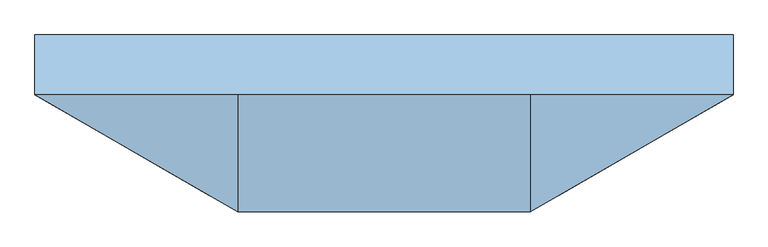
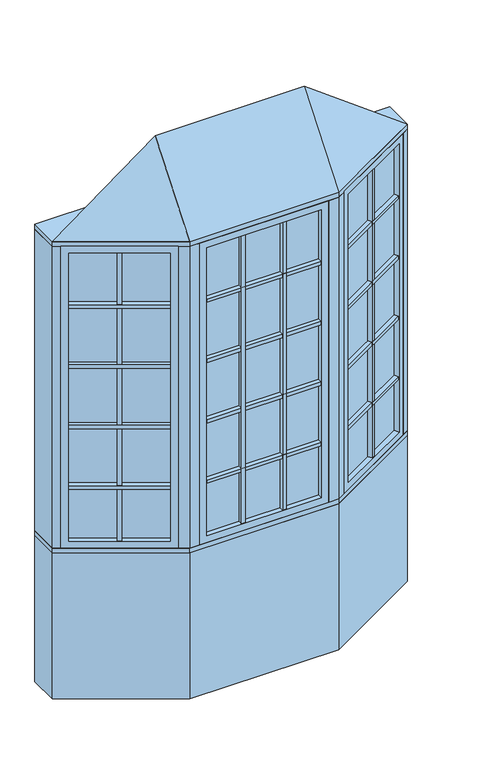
"""IFC4 building model written with IfcOpenShell, lengths in millimetres: window geometry, Pollard_Windows_Tudor Casement Bows and Bays : AML-BAY 30 AFR0516-08-500_GC."""

import ifcopenshell
import ifcopenshell.guid

model = None  # the IFC model being written
_history = None  # IfcOwnerHistory: only IFC2X3 demands one
_inside = {}  # id of a spatial element -> (the spatial element, [elements in it])
_under = {}  # id of a project, library or spatial element -> (it, [spatial elements below it])
_declared = {}  # id of a project -> (the project, [libraries it declares])
_typed = {}  # id of a type object -> (the type object, [elements of that type])
_made_of = {}  # id of a material, layer set ... -> (it, [elements and type objects made of it])


def new_model(schema):
    """Start an empty IFC model of exactly this schema.

    Asked for "IFC4X3", IfcOpenShell would pick the latest addendum, in which some entities
    have other attributes; the version numbers below select the first issue.
    IFC2X3 requires an IfcOwnerHistory on every rooted entity: one is made here for all.
    """
    global model, _history
    if schema == "IFC4X3":
        model = ifcopenshell.file(schema_version=(4, 3, 0, 0))
    else:
        model = ifcopenshell.file(schema=schema)
    _inside.clear()
    _under.clear()
    _declared.clear()
    _typed.clear()
    _made_of.clear()
    _history = None
    if model.schema == "IFC2X3":
        org = make("IfcOrganization", Name="unknown")
        user = make(
            "IfcPersonAndOrganization",
            ThePerson=make("IfcPerson", FamilyName="unknown"),
            TheOrganization=org,
        )
        app = make(
            "IfcApplication",
            ApplicationDeveloper=org,
            Version="unknown",
            ApplicationFullName="unknown",
            ApplicationIdentifier="unknown",
        )
        _history = make(
            "IfcOwnerHistory",
            OwningUser=user,
            OwningApplication=app,
            ChangeAction="ADDED",
            CreationDate=0,
        )
    return model


def make(cls, **values):
    """One entity of the class cls with the attributes given. An attribute that is None is left unset."""
    return model.create_entity(
        cls, **{name: value for name, value in values.items() if value is not None}
    )


def rooted(cls, **values):
    """An entity with a GlobalId (a new one), such as an element, a storey or a relation."""
    return make(cls, GlobalId=ifcopenshell.guid.new(), OwnerHistory=_history, **values)


def si_unit(unit_type, name, prefix=None):
    """IfcSIUnit, for example si_unit("LENGTHUNIT", "METRE", prefix="MILLI")."""
    return make("IfcSIUnit", UnitType=unit_type, Prefix=prefix, Name=name)


def assignment(units):
    """IfcUnitAssignment: the units of a project."""
    return None if units is None else make("IfcUnitAssignment", Units=units)


def point(xyz):
    """IfcCartesianPoint."""
    return None if xyz is None else make("IfcCartesianPoint", Coordinates=xyz)


def direction(xyz):
    """IfcDirection."""
    return None if xyz is None else make("IfcDirection", DirectionRatios=xyz)


def frame(location, z_axis=None, x_axis=None):
    """IfcAxis2Placement3D, a coordinate frame: its origin and axes. An axis left out is left unset."""
    return make(
        "IfcAxis2Placement3D",
        Location=point(location),
        Axis=direction(z_axis),
        RefDirection=direction(x_axis),
    )


def origin():
    """The frame at (0, 0, 0) with its axes left unset."""
    return frame((0.0, 0.0, 0.0))


def origin_with_axes():
    """The frame at (0, 0, 0) with the z axis (0, 0, 1) and the x axis (1, 0, 0) written out."""
    return frame((0.0, 0.0, 0.0), z_axis=(0.0, 0.0, 1.0), x_axis=(1.0, 0.0, 0.0))


def place(relative_to, where):
    """IfcLocalPlacement: puts the frame where relative to a parent placement (None: the world)."""
    return make(
        "IfcLocalPlacement", PlacementRelTo=relative_to, RelativePlacement=where
    )


def context(
    kind, dimensions, precision=None, world=None, true_north=None, identifier=None
):
    """IfcGeometricRepresentationContext, for example the 3D "Model" context."""
    return make(
        "IfcGeometricRepresentationContext",
        ContextIdentifier=identifier,
        ContextType=kind,
        CoordinateSpaceDimension=dimensions,
        Precision=precision,
        WorldCoordinateSystem=world,
        TrueNorth=true_north,
    )


def project(units=None, contexts=None):
    """IfcProject with its units and contexts."""
    return rooted(
        "IfcProject",
        Name="project",
        RepresentationContexts=contexts,
        UnitsInContext=assignment(units),
    )


def spatial(cls, under=None, at=None, **own):
    """A site, building, storey or space (cls), placed at a placement, below another one or the project."""
    s = rooted(cls, ObjectPlacement=at, **own)
    if under is not None:
        _under.setdefault(under.id(), (under, []))[1].append(s)
    return s


def polyline(points):
    """IfcPolyline through the points."""
    return make("IfcPolyline", Points=[point(p) for p in points])


def outline(outer, holes=None, kind="AREA"):
    """IfcArbitraryClosedProfileDef: a profile drawn as a closed curve; with holes, ...WithVoids."""
    if holes is None:
        return make("IfcArbitraryClosedProfileDef", ProfileType=kind, OuterCurve=outer)
    return make(
        "IfcArbitraryProfileDefWithVoids",
        ProfileType=kind,
        OuterCurve=outer,
        InnerCurves=holes,
    )


def extrude(swept, where, along, depth):
    """IfcExtrudedAreaSolid: the profile swept, set in the frame where, extruded along a direction by depth."""
    return make(
        "IfcExtrudedAreaSolid",
        SweptArea=swept,
        Position=where,
        ExtrudedDirection=direction(along),
        Depth=depth,
    )


def faces_of(points, faces, orient=None, outer=None):
    """IfcFace entities. A face is a list of loops; a loop is a list of indices into points, from 0.

    orient and outer hold one flag for each loop. By default every Orientation is true, the
    first loop of a face is its IfcFaceOuterBound and the others are IfcFaceBound.
    """
    made = []
    for i, loops in enumerate(faces):
        bounds = []
        for j, loop in enumerate(loops):
            is_outer = j == 0 if outer is None else outer[i][j]
            bounds.append(
                make(
                    "IfcFaceOuterBound" if is_outer else "IfcFaceBound",
                    Bound=make("IfcPolyLoop", Polygon=[points[k] for k in loop]),
                    Orientation=True if orient is None else orient[i][j],
                )
            )
        made.append(make("IfcFace", Bounds=bounds))
    return made


def faceted_brep(points, faces, orient=None, outer=None, voids=None):
    """IfcFacetedBrep: a solid bounded by flat faces; with voids (closed shells), ...WithVoids."""
    shared = [point(p) for p in points]
    hull = make("IfcClosedShell", CfsFaces=faces_of(shared, faces, orient, outer))
    if voids is None:
        return make("IfcFacetedBrep", Outer=hull)
    return make(
        "IfcFacetedBrepWithVoids",
        Outer=hull,
        Voids=[
            make(cls, CfsFaces=faces_of(shared, fs, o, b)) for cls, fs, o, b in voids
        ],
    )


def shape(context_of_items, identifier, shape_type, items):
    """IfcShapeRepresentation: the items that make up one representation, for example the "Body"."""
    return make(
        "IfcShapeRepresentation",
        ContextOfItems=context_of_items,
        RepresentationIdentifier=identifier,
        RepresentationType=shape_type,
        Items=items,
    )


def source(mapping_origin, context_of_items, identifier, shape_type, items):
    """IfcRepresentationMap: a shape defined once, which mapped items show again and again."""
    return make(
        "IfcRepresentationMap",
        MappingOrigin=mapping_origin,
        MappedRepresentation=shape(context_of_items, identifier, shape_type, items),
    )


def transform(
    local_origin,
    x_axis=None,
    y_axis=None,
    z_axis=None,
    scale=None,
    scale2=None,
    scale3=None,
    uniform=True,
):
    """IfcCartesianTransformationOperator3D, or its non-uniform kind. x_axis, y_axis, z_axis: its Axis1, 2, 3."""
    if uniform:
        return make(
            "IfcCartesianTransformationOperator3D",
            Axis1=direction(x_axis),
            Axis2=direction(y_axis),
            LocalOrigin=point(local_origin),
            Scale=scale,
            Axis3=direction(z_axis),
        )
    return make(
        "IfcCartesianTransformationOperator3DnonUniform",
        Axis1=direction(x_axis),
        Axis2=direction(y_axis),
        LocalOrigin=point(local_origin),
        Scale=scale,
        Axis3=direction(z_axis),
        Scale2=scale2,
        Scale3=scale3,
    )


def mapped(mapping_source, mapping_target):
    """IfcMappedItem: shows the shape of a source again, moved by a transform."""
    return make(
        "IfcMappedItem", MappingSource=mapping_source, MappingTarget=mapping_target
    )


def made_of(thing, what):
    """Note that an element or type object is made of a material, layer set ...; save() writes the relation."""
    if what is not None:
        _made_of.setdefault(what.id(), (what, []))[1].append(thing)
    return thing


def element(
    cls,
    number,
    at=None,
    inside=None,
    cuts=None,
    type_object=None,
    material=None,
    context=None,
    identifier="Body",
    shape_type=None,
    held_by="IfcProductDefinitionShape",
    body=None,
    shapes=None,
    **own,
):
    """One element of the class cls, such as IfcWall. Its Tag is "e" and its number.

    at: its placement. inside: the storey or other place that contains it. cuts: it is an
    opening in that element (IfcRelVoidsElement). A single representation is given by context,
    identifier, shape_type and body (its items); several are given by shapes. held_by: the class
    of the entity that holds the representations. save() writes the other relations.
    """
    e = rooted(cls, Tag="e%d" % number, ObjectPlacement=at, **own)
    if body is not None:
        shapes = [shape(context, identifier, shape_type, body)]
    if shapes is not None:
        e.Representation = make(held_by, Representations=shapes)
    if inside is not None:
        _inside.setdefault(inside.id(), (inside, []))[1].append(e)
    if cuts is not None:
        rooted(
            "IfcRelVoidsElement", RelatingBuildingElement=cuts, RelatedOpeningElement=e
        )
    if type_object is not None:
        _typed.setdefault(type_object.id(), (type_object, []))[1].append(e)
    return made_of(e, material)


def aggregate(whole, parts):
    """IfcRelAggregates: a whole, such as a stair, and the parts it consists of."""
    return rooted("IfcRelAggregates", RelatingObject=whole, RelatedObjects=parts)


def save(model, path):
    """Write the relations noted so far, then the file.

    IfcRelAggregates (storeys below a building ...), IfcRelContainedInSpatialStructure (elements
    in a storey), IfcRelDefinesByType, IfcRelAssociatesMaterial and IfcRelDeclares: one each for
    every whole, place, type object, material and project.
    """
    for whole, parts in _under.values():
        aggregate(whole, parts)
    for where, things in _inside.values():
        rooted(
            "IfcRelContainedInSpatialStructure",
            RelatedElements=things,
            RelatingStructure=where,
        )
    for kind, things in _typed.values():
        rooted("IfcRelDefinesByType", RelatedObjects=things, RelatingType=kind)
    for what, things in _made_of.values():
        rooted("IfcRelAssociatesMaterial", RelatedObjects=things, RelatingMaterial=what)
    for by, libraries in _declared.values():
        rooted("IfcRelDeclares", RelatingContext=by, RelatedDefinitions=libraries)
    model.write(path)


def window_facd88c2(model_context):
    return source(origin(), model_context, "Body", "SolidModel", [
        extrude(outline(polyline([(445.7305346, -327.3537343), (434.7305346, -308.3011754), (815.6135794, -88.3982469), (826.6135794, -107.4508058), (445.7305346, -327.3537343)])), frame((0.0, 0.0, 1110.998), z_axis=(0.0, 0.0, 1.0), x_axis=(1.0, 0.0, 0.0)), (0.0, 0.0, 1.0), 18.0),
        extrude(outline(polyline([(432.1905346, -303.9017664), (421.1905346, -284.8492075), (802.0735794, -64.946279), (813.0735794, -83.9988379), (432.1905346, -303.9017664)])), frame((0.0, 0.0, 1110.998), z_axis=(0.0, 0.0, 1.0), x_axis=(1.0, 0.0, 0.0)), (0.0, 0.0, 1.0), 18.0),
        extrude(outline(polyline([(445.7305346, -327.3537343), (434.7305346, -308.3011754), (815.6135794, -88.3982469), (826.6135794, -107.4508058), (445.7305346, -327.3537343)])), frame((0.0, 0.0, 1430.998), z_axis=(0.0, 0.0, 1.0), x_axis=(1.0, 0.0, 0.0)), (0.0, 0.0, 1.0), 18.0),
        extrude(outline(polyline([(432.1905346, -303.9017664), (421.1905346, -284.8492075), (802.0735794, -64.946279), (813.0735794, -83.9988379), (432.1905346, -303.9017664)])), frame((0.0, 0.0, 1430.998), z_axis=(0.0, 0.0, 1.0), x_axis=(1.0, 0.0, 0.0)), (0.0, 0.0, 1.0), 18.0),
        extrude(outline(polyline([(445.7305346, -327.3537343), (434.7305346, -308.3011754), (815.6135794, -88.3982469), (826.6135794, -107.4508058), (445.7305346, -327.3537343)])), frame((0.0, 0.0, 1750.998), z_axis=(0.0, 0.0, 1.0), x_axis=(1.0, 0.0, 0.0)), (0.0, 0.0, 1.0), 18.0),
        extrude(outline(polyline([(432.1905346, -303.9017664), (421.1905346, -284.8492075), (802.0735794, -64.946279), (813.0735794, -83.9988379), (432.1905346, -303.9017664)])), frame((0.0, 0.0, 1750.998), z_axis=(0.0, 0.0, 1.0), x_axis=(1.0, 0.0, 0.0)), (0.0, 0.0, 1.0), 18.0),
        extrude(outline(polyline([(445.7305346, -327.3537343), (434.7305346, -308.3011754), (815.6135794, -88.3982469), (826.6135794, -107.4508058), (445.7305346, -327.3537343)])), frame((0.0, 0.0, 2070.998), z_axis=(0.0, 0.0, 1.0), x_axis=(1.0, 0.0, 0.0)), (0.0, 0.0, 1.0), 18.0),
        extrude(outline(polyline([(432.1905346, -303.9017664), (421.1905346, -284.8492075), (802.0735794, -64.946279), (813.0735794, -83.9988379), (432.1905346, -303.9017664)])), frame((0.0, 0.0, 2070.998), z_axis=(0.0, 0.0, 1.0), x_axis=(1.0, 0.0, 0.0)), (0.0, 0.0, 1.0), 18.0),
        extrude(outline(polyline([(632.9662856, -193.8497112), (643.9662856, -212.9022701), (628.3778284, -221.9022701), (617.3778284, -202.8497112), (632.9662856, -193.8497112)])), frame((0.0, 0.0, 835.8628), z_axis=(0.0, 0.0, 1.0), x_axis=(1.0, 0.0, 0.0)), (0.0, 0.0, 1.0), 1528.2704),
        extrude(outline(polyline([(630.4262856, -189.4503021), (614.8378284, -198.4503021), (603.8378284, -179.3977432), (619.4262856, -170.3977432), (630.4262856, -189.4503021)])), frame((0.0, 0.0, 835.8628), z_axis=(0.0, 0.0, 1.0), x_axis=(1.0, 0.0, 0.0)), (0.0, 0.0, 1.0), 1528.2704),
        extrude(outline(polyline([(826.612102, -82.0482469), (423.7320119, -314.6511754), (421.1920119, -310.2517664), (824.072102, -77.6488379), (826.612102, -82.0482469)])), frame((0.0, 0.0, 823.1628), z_axis=(0.0, 0.0, 1.0), x_axis=(1.0, 0.0, 0.0)), (0.0, 0.0, 1.0), 1553.6704),
        faceted_brep([(815.6135794, -88.3982469, 835.8628), (828.3135794, -110.3952922, 835.8628), (828.3135794, -110.3952922, 2364.1332), (815.6135794, -88.3982469, 2364.1332), (824.072102, -77.6488379, 823.1628), (826.612102, -82.0482469, 823.1628), (826.612102, -82.0482469, 2376.8332), (824.072102, -77.6488379, 2376.8332), (800.3735794, -62.0017926, 835.8628), (813.0735794, -83.9988379, 835.8628), (813.0735794, -83.9988379, 2364.1332), (800.3735794, -62.0017926, 2364.1332), (859.3734073, -92.4628922, 799.998), (831.4334073, -44.0693926, 799.998), (831.4334073, -44.0693926, 2399.998), (859.3734073, -92.4628922, 2399.998), (447.4305346, -330.2982207, 2364.1332), (434.7305346, -308.3011754, 2364.1332), (423.7320119, -314.6511754, 2376.8332), (421.1920119, -310.2517664, 2376.8332), (432.1905346, -303.9017664, 2364.1332), (419.4905346, -281.9047211, 2364.1332), (388.4307067, -299.8371211, 2399.998), (416.3707067, -348.2306207, 2399.998), (447.4305346, -330.2982207, 835.8628), (434.7305346, -308.3011754, 835.8628), (423.7320119, -314.6511754, 823.1628), (421.1920119, -310.2517664, 823.1628), (432.1905346, -303.9017664, 835.8628), (419.4905346, -281.9047211, 835.8628), (388.4307067, -299.8371211, 799.998), (416.3707067, -348.2306207, 799.998)], [[[0, 1, 2, 3]], [[4, 5, 6, 7]], [[8, 9, 10, 11]], [[12, 13, 14, 15]], [[3, 2, 16, 17]], [[7, 6, 18, 19]], [[11, 10, 20, 21]], [[15, 14, 22, 23]], [[17, 16, 24, 25]], [[19, 18, 26, 27]], [[21, 20, 28, 29]], [[23, 22, 30, 31]], [[25, 24, 1, 0]], [[5, 26, 18, 6], [3, 17, 25, 0]], [[27, 26, 5, 4]], [[7, 19, 27, 4], [9, 28, 20, 10]], [[29, 28, 9, 8]], [[13, 30, 22, 14], [11, 21, 29, 8]], [[31, 30, 13, 12]], [[15, 23, 31, 12], [1, 24, 16, 2]]]),
        extrude(outline(polyline([(111.9683455, -347.8306207), (111.9683455, -369.8306207), (93.9683455, -369.8306207), (93.9683455, -347.8306207), (111.9683455, -347.8306207)])), frame((0.0, 0.0, 835.8628), z_axis=(0.0, 0.0, 1.0), x_axis=(1.0, 0.0, 0.0)), (0.0, 0.0, 1.0), 1528.2704),
        extrude(outline(polyline([(111.9683455, -342.7506207), (93.9683455, -342.7506207), (93.9683455, -320.7506207), (111.9683455, -320.7506207), (111.9683455, -342.7506207)])), frame((0.0, 0.0, 835.8628), z_axis=(0.0, 0.0, 1.0), x_axis=(1.0, 0.0, 0.0)), (0.0, 0.0, 1.0), 1528.2704),
        extrude(outline(polyline([(-93.9683455, -347.8306207), (-93.9683455, -369.8306207), (-111.9683455, -369.8306207), (-111.9683455, -347.8306207), (-93.9683455, -347.8306207)])), frame((0.0, 0.0, 835.8628), z_axis=(0.0, 0.0, 1.0), x_axis=(1.0, 0.0, 0.0)), (0.0, 0.0, 1.0), 1528.2704),
        extrude(outline(polyline([(-93.9683455, -342.7506207), (-111.9683455, -342.7506207), (-111.9683455, -320.7506207), (-93.9683455, -320.7506207), (-93.9683455, -342.7506207)])), frame((0.0, 0.0, 835.8628), z_axis=(0.0, 0.0, 1.0), x_axis=(1.0, 0.0, 0.0)), (0.0, 0.0, 1.0), 1528.2704),
        extrude(outline(polyline([(-287.2046365, -369.8306207), (-287.2046365, -347.8306207), (287.2046365, -347.8306207), (287.2046365, -369.8306207), (-287.2046365, -369.8306207)])), frame((0.0, 0.0, 1110.998), z_axis=(0.0, 0.0, 1.0), x_axis=(1.0, 0.0, 0.0)), (0.0, 0.0, 1.0), 18.0),
        extrude(outline(polyline([(-287.2046365, -342.7506207), (-287.2046365, -320.7506207), (287.2046365, -320.7506207), (287.2046365, -342.7506207), (-287.2046365, -342.7506207)])), frame((0.0, 0.0, 1110.998), z_axis=(0.0, 0.0, 1.0), x_axis=(1.0, 0.0, 0.0)), (0.0, 0.0, 1.0), 18.0),
        extrude(outline(polyline([(-287.2046365, -369.8306207), (-287.2046365, -347.8306207), (287.2046365, -347.8306207), (287.2046365, -369.8306207), (-287.2046365, -369.8306207)])), frame((0.0, 0.0, 1430.998), z_axis=(0.0, 0.0, 1.0), x_axis=(1.0, 0.0, 0.0)), (0.0, 0.0, 1.0), 18.0),
        extrude(outline(polyline([(-287.2046365, -342.7506207), (-287.2046365, -320.7506207), (287.2046365, -320.7506207), (287.2046365, -342.7506207), (-287.2046365, -342.7506207)])), frame((0.0, 0.0, 1430.998), z_axis=(0.0, 0.0, 1.0), x_axis=(1.0, 0.0, 0.0)), (0.0, 0.0, 1.0), 18.0),
        extrude(outline(polyline([(-287.2046365, -369.8306207), (-287.2046365, -347.8306207), (287.2046365, -347.8306207), (287.2046365, -369.8306207), (-287.2046365, -369.8306207)])), frame((0.0, 0.0, 1750.998), z_axis=(0.0, 0.0, 1.0), x_axis=(1.0, 0.0, 0.0)), (0.0, 0.0, 1.0), 18.0),
        extrude(outline(polyline([(-287.2046365, -342.7506207), (-287.2046365, -320.7506207), (287.2046365, -320.7506207), (287.2046365, -342.7506207), (-287.2046365, -342.7506207)])), frame((0.0, 0.0, 1750.998), z_axis=(0.0, 0.0, 1.0), x_axis=(1.0, 0.0, 0.0)), (0.0, 0.0, 1.0), 18.0),
        extrude(outline(polyline([(-826.6135794, -107.4508058), (-815.6135794, -88.3982469), (-434.7305346, -308.3011754), (-445.7305346, -327.3537343), (-826.6135794, -107.4508058)])), frame((0.0, 0.0, 1110.998), z_axis=(0.0, 0.0, 1.0), x_axis=(1.0, 0.0, 0.0)), (0.0, 0.0, 1.0), 18.0),
        extrude(outline(polyline([(-813.0735794, -83.9988379), (-802.0735794, -64.946279), (-421.1905346, -284.8492075), (-432.1905346, -303.9017664), (-813.0735794, -83.9988379)])), frame((0.0, 0.0, 1110.998), z_axis=(0.0, 0.0, 1.0), x_axis=(1.0, 0.0, 0.0)), (0.0, 0.0, 1.0), 18.0),
        extrude(outline(polyline([(-826.6135794, -107.4508058), (-815.6135794, -88.3982469), (-434.7305346, -308.3011754), (-445.7305346, -327.3537343), (-826.6135794, -107.4508058)])), frame((0.0, 0.0, 1430.998), z_axis=(0.0, 0.0, 1.0), x_axis=(1.0, 0.0, 0.0)), (0.0, 0.0, 1.0), 18.0),
        extrude(outline(polyline([(-813.0735794, -83.9988379), (-802.0735794, -64.946279), (-421.1905346, -284.8492075), (-432.1905346, -303.9017664), (-813.0735794, -83.9988379)])), frame((0.0, 0.0, 1430.998), z_axis=(0.0, 0.0, 1.0), x_axis=(1.0, 0.0, 0.0)), (0.0, 0.0, 1.0), 18.0),
        extrude(outline(polyline([(-826.6135794, -107.4508058), (-815.6135794, -88.3982469), (-434.7305346, -308.3011754), (-445.7305346, -327.3537343), (-826.6135794, -107.4508058)])), frame((0.0, 0.0, 1750.998), z_axis=(0.0, 0.0, 1.0), x_axis=(1.0, 0.0, 0.0)), (0.0, 0.0, 1.0), 18.0),
        extrude(outline(polyline([(-813.0735794, -83.9988379), (-802.0735794, -64.946279), (-421.1905346, -284.8492075), (-432.1905346, -303.9017664), (-813.0735794, -83.9988379)])), frame((0.0, 0.0, 1750.998), z_axis=(0.0, 0.0, 1.0), x_axis=(1.0, 0.0, 0.0)), (0.0, 0.0, 1.0), 18.0),
        extrude(outline(polyline([(-826.6135794, -107.4508058), (-815.6135794, -88.3982469), (-434.7305346, -308.3011754), (-445.7305346, -327.3537343), (-826.6135794, -107.4508058)])), frame((0.0, 0.0, 2070.998), z_axis=(0.0, 0.0, 1.0), x_axis=(1.0, 0.0, 0.0)), (0.0, 0.0, 1.0), 18.0),
        extrude(outline(polyline([(-813.0735794, -83.9988379), (-802.0735794, -64.946279), (-421.1905346, -284.8492075), (-432.1905346, -303.9017664), (-813.0735794, -83.9988379)])), frame((0.0, 0.0, 2070.998), z_axis=(0.0, 0.0, 1.0), x_axis=(1.0, 0.0, 0.0)), (0.0, 0.0, 1.0), 18.0),
        extrude(outline(polyline([(-287.2046365, -369.8306207), (-287.2046365, -347.8306207), (287.2046365, -347.8306207), (287.2046365, -369.8306207), (-287.2046365, -369.8306207)])), frame((0.0, 0.0, 2070.998), z_axis=(0.0, 0.0, 1.0), x_axis=(1.0, 0.0, 0.0)), (0.0, 0.0, 1.0), 18.0),
        extrude(outline(polyline([(-287.2046365, -342.7506207), (-287.2046365, -320.7506207), (287.2046365, -320.7506207), (287.2046365, -342.7506207), (-287.2046365, -342.7506207)])), frame((0.0, 0.0, 2070.998), z_axis=(0.0, 0.0, 1.0), x_axis=(1.0, 0.0, 0.0)), (0.0, 0.0, 1.0), 18.0),
        extrude(outline(polyline([(-617.3778284, -202.8497112), (-628.3778284, -221.9022701), (-643.9662856, -212.9022701), (-632.9662856, -193.8497112), (-617.3778284, -202.8497112)])), frame((0.0, 0.0, 835.8628), z_axis=(0.0, 0.0, 1.0), x_axis=(1.0, 0.0, 0.0)), (0.0, 0.0, 1.0), 1528.2704),
        extrude(outline(polyline([(-614.8378284, -198.4503021), (-630.4262856, -189.4503021), (-619.4262856, -170.3977432), (-603.8378284, -179.3977432), (-614.8378284, -198.4503021)])), frame((0.0, 0.0, 835.8628), z_axis=(0.0, 0.0, 1.0), x_axis=(1.0, 0.0, 0.0)), (0.0, 0.0, 1.0), 1528.2704),
        extrude(outline(polyline([(-423.7320119, -314.6511754), (-826.612102, -82.0482469), (-824.072102, -77.6488379), (-421.1920119, -310.2517664), (-423.7320119, -314.6511754)])), frame((0.0, 0.0, 823.1628), z_axis=(0.0, 0.0, 1.0), x_axis=(1.0, 0.0, 0.0)), (0.0, 0.0, 1.0), 1553.6704),
        faceted_brep([(-432.1905346, -303.9017664, 2364.1332), (-419.4905346, -281.9047211, 2364.1332), (-419.4905346, -281.9047211, 835.8628), (-432.1905346, -303.9017664, 835.8628), (-423.7320119, -314.6511754, 2376.8332), (-421.1920119, -310.2517664, 2376.8332), (-421.1920119, -310.2517664, 823.1628), (-423.7320119, -314.6511754, 823.1628), (-447.4305346, -330.2982207, 2364.1332), (-434.7305346, -308.3011754, 2364.1332), (-434.7305346, -308.3011754, 835.8628), (-447.4305346, -330.2982207, 835.8628), (-388.4307067, -299.8371211, 2399.998), (-416.3707067, -348.2306207, 2399.998), (-416.3707067, -348.2306207, 799.998), (-388.4307067, -299.8371211, 799.998), (-800.3735794, -62.0017926, 835.8628), (-813.0735794, -83.9988379, 835.8628), (-824.072102, -77.6488379, 823.1628), (-826.612102, -82.0482469, 823.1628), (-815.6135794, -88.3982469, 835.8628), (-828.3135794, -110.3952922, 835.8628), (-859.3734073, -92.4628922, 799.998), (-831.4334073, -44.0693926, 799.998), (-800.3735794, -62.0017926, 2364.1332), (-813.0735794, -83.9988379, 2364.1332), (-824.072102, -77.6488379, 2376.8332), (-826.612102, -82.0482469, 2376.8332), (-815.6135794, -88.3982469, 2364.1332), (-828.3135794, -110.3952922, 2364.1332), (-859.3734073, -92.4628922, 2399.998), (-831.4334073, -44.0693926, 2399.998)], [[[0, 1, 2, 3]], [[4, 5, 6, 7]], [[8, 9, 10, 11]], [[12, 13, 14, 15]], [[3, 2, 16, 17]], [[7, 6, 18, 19]], [[11, 10, 20, 21]], [[15, 14, 22, 23]], [[17, 16, 24, 25]], [[19, 18, 26, 27]], [[21, 20, 28, 29]], [[23, 22, 30, 31]], [[15, 23, 31, 12], [1, 24, 16, 2]], [[25, 24, 1, 0]], [[5, 26, 18, 6], [3, 17, 25, 0]], [[27, 26, 5, 4]], [[7, 19, 27, 4], [9, 28, 20, 10]], [[29, 28, 9, 8]], [[13, 30, 22, 14], [11, 21, 29, 8]], [[31, 30, 13, 12]]]),
        extrude(outline(polyline([(299.9046365, -347.8306207), (-299.9046365, -347.8306207), (-299.9046365, -342.7506207), (299.9046365, -342.7506207), (299.9046365, -347.8306207)])), frame((0.0, 0.0, 823.1628), z_axis=(0.0, 0.0, 1.0), x_axis=(1.0, 0.0, 0.0)), (0.0, 0.0, 1.0), 1553.6704),
        faceted_brep([(287.2046365, -347.8306207, 835.8628), (287.2046365, -373.2306207, 835.8628), (287.2046365, -373.2306207, 2364.1332), (287.2046365, -347.8306207, 2364.1332), (299.9046365, -342.7506207, 823.1628), (299.9046365, -347.8306207, 823.1628), (299.9046365, -347.8306207, 2376.8332), (299.9046365, -342.7506207, 2376.8332), (287.2046365, -317.3506207, 835.8628), (287.2046365, -342.7506207, 835.8628), (287.2046365, -342.7506207, 2364.1332), (287.2046365, -317.3506207, 2364.1332), (323.0694365, -373.2306207, 799.998), (323.0694365, -317.3506207, 799.998), (323.0694365, -317.3506207, 2399.998), (323.0694365, -373.2306207, 2399.998), (-287.2046365, -373.2306207, 2364.1332), (-287.2046365, -347.8306207, 2364.1332), (-299.9046365, -347.8306207, 2376.8332), (-299.9046365, -342.7506207, 2376.8332), (-287.2046365, -342.7506207, 2364.1332), (-287.2046365, -317.3506207, 2364.1332), (-323.0694365, -317.3506207, 2399.998), (-323.0694365, -373.2306207, 2399.998), (-287.2046365, -373.2306207, 835.8628), (-287.2046365, -347.8306207, 835.8628), (-299.9046365, -347.8306207, 823.1628), (-299.9046365, -342.7506207, 823.1628), (-287.2046365, -342.7506207, 835.8628), (-287.2046365, -317.3506207, 835.8628), (-323.0694365, -317.3506207, 799.998), (-323.0694365, -373.2306207, 799.998)], [[[0, 1, 2, 3]], [[4, 5, 6, 7]], [[8, 9, 10, 11]], [[12, 13, 14, 15]], [[3, 2, 16, 17]], [[7, 6, 18, 19]], [[11, 10, 20, 21]], [[15, 14, 22, 23]], [[17, 16, 24, 25]], [[19, 18, 26, 27]], [[21, 20, 28, 29]], [[23, 22, 30, 31]], [[15, 23, 31, 12], [1, 24, 16, 2]], [[25, 24, 1, 0]], [[5, 26, 18, 6], [3, 17, 25, 0]], [[27, 26, 5, 4]], [[7, 19, 27, 4], [9, 28, 20, 10]], [[29, 28, 9, 8]], [[13, 30, 22, 14], [11, 21, 29, 8]], [[31, 30, 13, 12]]]),
        faceted_brep([(890.0, -74.7806207, 2425.398), (373.0694365, -373.2306207, 2425.398), (-373.0694365, -373.2306207, 2425.398), (-890.0, -74.7806207, 2425.398), (-373.0694365, -74.7806207, 2806.398), (373.0694365, -74.7806207, 2806.398)], [[[0, 1, 2, 3]], [[3, 2, 4]], [[2, 1, 5, 4]], [[1, 0, 5]], [[0, 3, 4, 5]]]),
        extrude(outline(polyline([(-890.0, 77.6193793), (890.0, 77.6193793), (890.0, -74.7806207), (373.0694365, -373.2306207), (-373.0694365, -373.2306207), (-890.0, -74.7806207), (-890.0, 77.6193793)])), frame((0.0, 0.0, 2399.998), z_axis=(0.0, 0.0, 1.0), x_axis=(1.0, 0.0, 0.0)), (0.0, 0.0, 1.0), 25.4),
        extrude(outline(polyline([(-890.0, -74.7806207), (-890.0, 77.6193793), (-849.1645431, 77.6193793), (-849.1645431, -74.7806207), (-859.3734073, -92.4628922), (-890.0, -74.7806207)])), frame((0.0, 0.0, 799.998), z_axis=(0.0, 0.0, 1.0), x_axis=(1.0, 0.0, 0.0)), (0.0, 0.0, 1.0), 1600.0),
        extrude(outline(polyline([(890.0, 77.6193793), (890.0, -74.7806207), (859.3734073, -92.4628922), (849.1645431, -74.7806207), (849.1645431, 77.6193793), (890.0, 77.6193793)])), frame((0.0, 0.0, 799.998), z_axis=(0.0, 0.0, 1.0), x_axis=(1.0, 0.0, 0.0)), (0.0, 0.0, 1.0), 1600.0),
        extrude(outline(polyline([(373.0694365, -373.2306207), (323.0694365, -373.2306207), (323.0694365, -323.2306207), (359.6719769, -323.2306207), (391.3707067, -304.9293505), (416.3707067, -348.2306207), (373.0694365, -373.2306207)])), frame((0.0, 0.0, 799.998), z_axis=(0.0, 0.0, 1.0), x_axis=(1.0, 0.0, 0.0)), (0.0, 0.0, 1.0), 1600.0),
        extrude(outline(polyline([(-373.0694365, -373.2306207), (-416.3707067, -348.2306207), (-391.3707067, -304.9293505), (-359.6719769, -323.2306207), (-323.0694365, -323.2306207), (-323.0694365, -373.2306207), (-373.0694365, -373.2306207)])), frame((0.0, 0.0, 799.998), z_axis=(0.0, 0.0, 1.0), x_axis=(1.0, 0.0, 0.0)), (0.0, 0.0, 1.0), 1600.0),
        extrude(outline(polyline([(-373.0694365, -373.2306207), (-890.0, -74.7806207), (-890.0, 77.6193793), (-849.1645431, 77.6193793), (-332.2339796, -220.8306207), (332.2339796, -220.8306207), (849.1645431, 77.6193793), (890.0, 77.6193793), (890.0, -74.7806207), (373.0694365, -373.2306207), (-373.0694365, -373.2306207)])), frame((0.0, 0.0, 774.598), z_axis=(0.0, 0.0, 1.0), x_axis=(1.0, 0.0, 0.0)), (0.0, 0.0, 1.0), 25.4),
        extrude(outline(polyline([(-890.0, -74.7806207), (-890.0, 77.6193793), (-849.1645431, 77.6193793), (-332.2339796, -220.8306207), (332.2339796, -220.8306207), (849.1645431, 77.6193793), (890.0, 77.6193793), (890.0, -74.7806207), (373.0694365, -373.2306207), (-373.0694365, -373.2306207), (-890.0, -74.7806207)])), origin_with_axes(), (0.0, 0.0, 1.0), 774.598),
    ])


if __name__ == "__main__":
    model = new_model("IFC4")
    model_context = context("Model", 3, world=origin())
    ifc_project = project(units=[si_unit("LENGTHUNIT", "METRE", prefix="MILLI")], contexts=[model_context])
    site = spatial("IfcSite", under=ifc_project)
    building = spatial("IfcBuilding", under=site)
    placement = place(None, origin())
    window_shape = window_facd88c2(model_context)
    element("IfcWindow", 1, ObjectType="Pollard_Windows_Tudor Casement Bows and Bays : AML-BAY 30 AFR0516-08-500_GC", at=placement, inside=building, context=model_context, shape_type="MappedRepresentation", body=[
        mapped(window_shape, transform((0.0, 0.0, 0.0), x_axis=(1.0, 0.0, 0.0), y_axis=(0.0, 1.0, 0.0), z_axis=(0.0, 0.0, 1.0))),
    ])
    save(model, "model.ifc")
